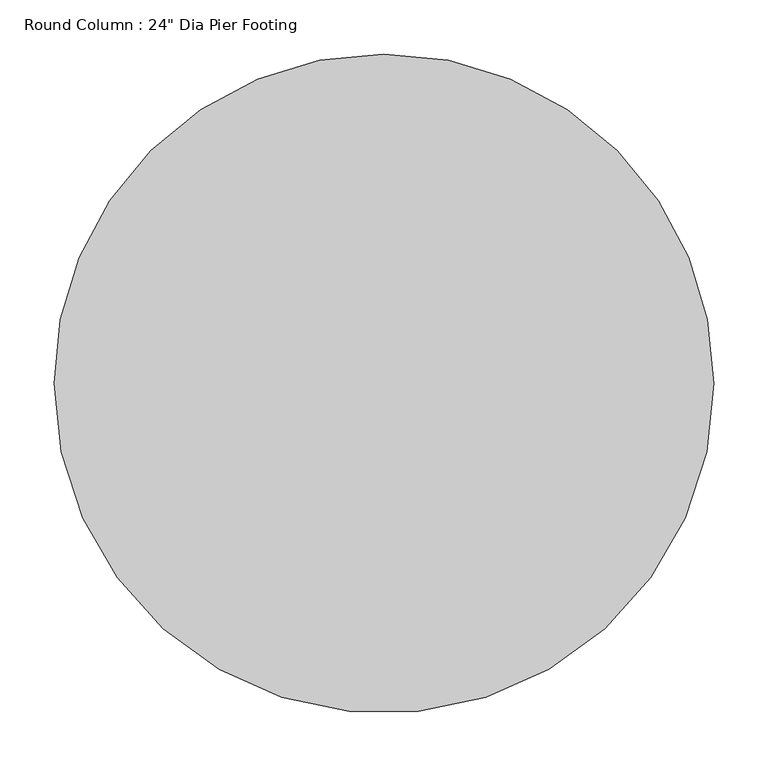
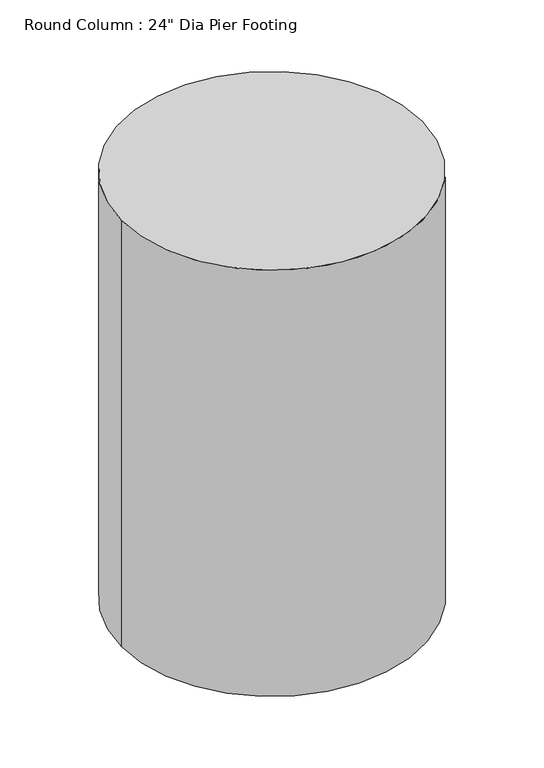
"""IFC4 building model written with IfcOpenShell, lengths in millimetres: column geometry."""

from ifc_helpers import new_model, si_unit, point, frame, origin, origin_2d, place, context, project, spatial, circle_curve, trimmed, segment, composite_curve, outline, extrude, source, transform, mapped, element, save


def column_43f7fc2e(model_context):
    return source(origin(), model_context, "Body", "SweptSolid", [
        extrude(outline(composite_curve([segment(trimmed(circle_curve(origin_2d(), 304.8), [point((304.8, 0.0))], [point((-304.8, 0.0))], False, "CARTESIAN"), True, "CONTINUOUS"), segment(trimmed(circle_curve(origin_2d(), 304.8), [point((-304.8, 0.0))], [point((0.0, 304.8))], False, "CARTESIAN"), True, "CONTINUOUS"), segment(trimmed(circle_curve(origin_2d(), 304.8), [point((0.0, 304.8))], [point((304.8, 0.0))], False, "CARTESIAN"), True, "CONTINUOUS")], self_intersect=False)), frame((0.0, 0.0, 289471.1), z_axis=(0.0, 0.0, 1.0), x_axis=(1.0, 0.0, 0.0)), (0.0, 0.0, 1.0), 914.4),
    ])


if __name__ == "__main__":
    model = new_model("IFC4")
    model_context = context("Model", 3, world=origin())
    ifc_project = project(units=[si_unit("LENGTHUNIT", "METRE", prefix="MILLI")], contexts=[model_context])
    site = spatial("IfcSite", under=ifc_project)
    building = spatial("IfcBuilding", under=site)
    placement = place(None, origin())
    column_shape = column_43f7fc2e(model_context)
    element("IfcColumn", 1, ObjectType="Round Column : 24\" Dia Pier Footing", at=placement, inside=building, context=model_context, shape_type="MappedRepresentation", body=[
        mapped(column_shape, transform((0.0, 0.0, 0.0), x_axis=(1.0, 0.0, 0.0), y_axis=(0.0, 1.0, 0.0), z_axis=(0.0, 0.0, 1.0))),
    ])
    save(model, "model.ifc")
